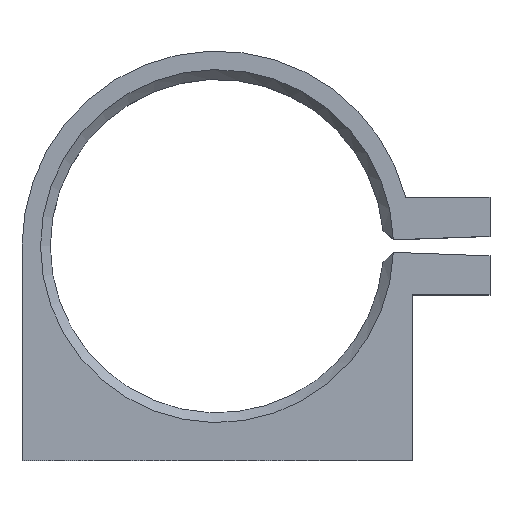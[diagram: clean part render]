
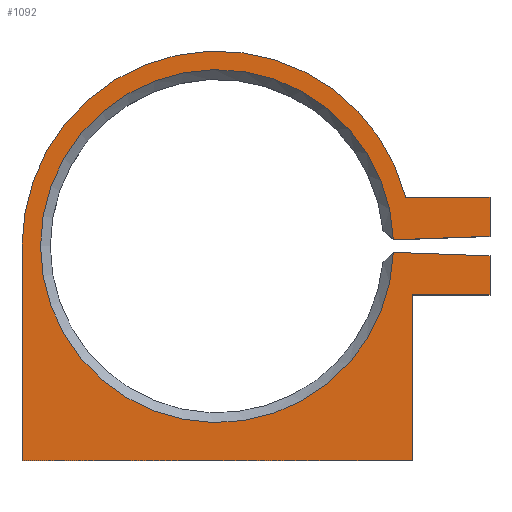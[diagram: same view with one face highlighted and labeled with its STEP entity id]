
A CAD part, top view. The second image highlights one B-rep face of the part: STEP entity #1092.
In plain terms, the highlighted planar face has unit normal (0, 0, 1).
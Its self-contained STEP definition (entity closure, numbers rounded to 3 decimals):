
#3 = CARTESIAN_POINT ( 'NONE',  ( 19.365, 5., 10. ) ) ;
#12 = CARTESIAN_POINT ( 'NONE',  ( 28., 0., 10. ) ) ;
#39 = ORIENTED_EDGE ( 'NONE', *, *, #423, .F. ) ;
#42 = EDGE_CURVE ( 'NONE', #1000, #203, #401, .T. ) ;
#54 = DIRECTION ( 'NONE',  ( 0., 0., -1. ) ) ;
#64 = EDGE_CURVE ( 'NONE', #372, #1111, #232, .T. ) ;
#66 = ORIENTED_EDGE ( 'NONE', *, *, #340, .F. ) ;
#78 = VERTEX_POINT ( 'NONE', #755 ) ;
#79 = DIRECTION ( 'NONE',  ( -1., 0., 0. ) ) ;
#90 = VECTOR ( 'NONE', #194, 1000. ) ;
#91 = PLANE ( 'NONE',  #329 ) ;
#96 = CARTESIAN_POINT ( 'NONE',  ( 20., 0., 10. ) ) ;
#98 = CARTESIAN_POINT ( 'NONE',  ( -20., 0., 10. ) ) ;
#116 = CARTESIAN_POINT ( 'NONE',  ( 28., -5., 10. ) ) ;
#137 = CARTESIAN_POINT ( 'NONE',  ( 28., 1., 10. ) ) ;
#146 = EDGE_CURVE ( 'NONE', #78, #943, #417, .T. ) ;
#147 = CARTESIAN_POINT ( 'NONE',  ( 28., 5., 10. ) ) ;
#170 = CARTESIAN_POINT ( 'NONE',  ( 20., -22., 10. ) ) ;
#178 = VECTOR ( 'NONE', #880, 1000. ) ;
#179 = LINE ( 'NONE', #547, #513 ) ;
#190 = VECTOR ( 'NONE', #769, 1000. ) ;
#194 = DIRECTION ( 'NONE',  ( 0., -1., 0. ) ) ;
#198 = VECTOR ( 'NONE', #1072, 1000. ) ;
#203 = VERTEX_POINT ( 'NONE', #3 ) ;
#213 = DIRECTION ( 'NONE',  ( 1., 0., 0. ) ) ;
#217 = EDGE_CURVE ( 'NONE', #78, #947, #349, .T. ) ;
#219 = CARTESIAN_POINT ( 'NONE',  ( 0., 0., 10. ) ) ;
#232 = LINE ( 'NONE', #592, #190 ) ;
#234 = LINE ( 'NONE', #502, #1091 ) ;
#239 = ORIENTED_EDGE ( 'NONE', *, *, #217, .F. ) ;
#266 = DIRECTION ( 'NONE',  ( 1., 0., 0. ) ) ;
#329 = AXIS2_PLACEMENT_3D ( 'NONE', #452, #373, #798 ) ;
#330 = CARTESIAN_POINT ( 'NONE',  ( 28., -1., 10. ) ) ;
#340 = EDGE_CURVE ( 'NONE', #947, #790, #535, .T. ) ;
#349 = LINE ( 'NONE', #330, #969 ) ;
#372 = VERTEX_POINT ( 'NONE', #98 ) ;
#373 = DIRECTION ( 'NONE',  ( 0., 0., 1. ) ) ;
#389 = ORIENTED_EDGE ( 'NONE', *, *, #42, .T. ) ;
#401 = LINE ( 'NONE', #928, #561 ) ;
#417 = CIRCLE ( 'NONE', #932, 18.1 ) ;
#423 = EDGE_CURVE ( 'NONE', #372, #203, #812, .T. ) ;
#452 = CARTESIAN_POINT ( 'NONE',  ( 0., 0., 10. ) ) ;
#469 = ORIENTED_EDGE ( 'NONE', *, *, #613, .F. ) ;
#502 = CARTESIAN_POINT ( 'NONE',  ( 0., -5., 10. ) ) ;
#505 = ORIENTED_EDGE ( 'NONE', *, *, #64, .T. ) ;
#508 = CARTESIAN_POINT ( 'NONE',  ( 0., 0., 10. ) ) ;
#513 = VECTOR ( 'NONE', #533, 1000. ) ;
#533 = DIRECTION ( 'NONE',  ( 1., 0., 0. ) ) ;
#535 = LINE ( 'NONE', #12, #198 ) ;
#547 = CARTESIAN_POINT ( 'NONE',  ( 0., -22., 10. ) ) ;
#561 = VECTOR ( 'NONE', #1013, 1000. ) ;
#592 = CARTESIAN_POINT ( 'NONE',  ( -20., 0., 10. ) ) ;
#613 = EDGE_CURVE ( 'NONE', #825, #943, #704, .T. ) ;
#619 = LINE ( 'NONE', #96, #178 ) ;
#649 = ORIENTED_EDGE ( 'NONE', *, *, #1057, .F. ) ;
#655 = ORIENTED_EDGE ( 'NONE', *, *, #1041, .T. ) ;
#663 = ORIENTED_EDGE ( 'NONE', *, *, #916, .F. ) ;
#681 = DIRECTION ( 'NONE',  ( 0.999, -0.036, 0. ) ) ;
#704 = LINE ( 'NONE', #1058, #1101 ) ;
#710 = VERTEX_POINT ( 'NONE', #1089 ) ;
#755 = CARTESIAN_POINT ( 'NONE',  ( 18.088, -0.646, 10. ) ) ;
#768 = DIRECTION ( 'NONE',  ( -0.999, -0.036, 0. ) ) ;
#769 = DIRECTION ( 'NONE',  ( 0., -1., 0. ) ) ;
#773 = AXIS2_PLACEMENT_3D ( 'NONE', #219, #54, #213 ) ;
#790 = VERTEX_POINT ( 'NONE', #116 ) ;
#798 = DIRECTION ( 'NONE',  ( 1., 0., 0. ) ) ;
#812 = CIRCLE ( 'NONE', #773, 20. ) ;
#825 = VERTEX_POINT ( 'NONE', #137 ) ;
#854 = EDGE_LOOP ( 'NONE', ( #239, #919, #469, #649, #389, #39, #505, #655, #1099, #663, #66 ) ) ;
#880 = DIRECTION ( 'NONE',  ( 0., 1., 0. ) ) ;
#885 = FACE_OUTER_BOUND ( 'NONE', #854, .T. ) ;
#916 = EDGE_CURVE ( 'NONE', #790, #710, #234, .T. ) ;
#919 = ORIENTED_EDGE ( 'NONE', *, *, #146, .T. ) ;
#928 = CARTESIAN_POINT ( 'NONE',  ( 0., 5., 10. ) ) ;
#932 = AXIS2_PLACEMENT_3D ( 'NONE', #508, #1054, #266 ) ;
#943 = VERTEX_POINT ( 'NONE', #1123 ) ;
#947 = VERTEX_POINT ( 'NONE', #1142 ) ;
#969 = VECTOR ( 'NONE', #681, 1000. ) ;
#971 = CARTESIAN_POINT ( 'NONE',  ( -20., -22., 10. ) ) ;
#983 = VERTEX_POINT ( 'NONE', #170 ) ;
#986 = LINE ( 'NONE', #1056, #90 ) ;
#1000 = VERTEX_POINT ( 'NONE', #147 ) ;
#1013 = DIRECTION ( 'NONE',  ( -1., 0., 0. ) ) ;
#1041 = EDGE_CURVE ( 'NONE', #1111, #983, #179, .T. ) ;
#1054 = DIRECTION ( 'NONE',  ( 0., 0., -1. ) ) ;
#1056 = CARTESIAN_POINT ( 'NONE',  ( 28., 0., 10. ) ) ;
#1057 = EDGE_CURVE ( 'NONE', #1000, #825, #986, .T. ) ;
#1058 = CARTESIAN_POINT ( 'NONE',  ( 0., 0., 10. ) ) ;
#1072 = DIRECTION ( 'NONE',  ( 0., -1., 0. ) ) ;
#1080 = EDGE_CURVE ( 'NONE', #983, #710, #619, .T. ) ;
#1089 = CARTESIAN_POINT ( 'NONE',  ( 20., -5., 10. ) ) ;
#1091 = VECTOR ( 'NONE', #79, 1000. ) ;
#1092 = ADVANCED_FACE ( 'NONE', ( #885 ), #91, .T. ) ;
#1099 = ORIENTED_EDGE ( 'NONE', *, *, #1080, .T. ) ;
#1101 = VECTOR ( 'NONE', #768, 1000. ) ;
#1111 = VERTEX_POINT ( 'NONE', #971 ) ;
#1123 = CARTESIAN_POINT ( 'NONE',  ( 18.088, 0.646, 10. ) ) ;
#1142 = CARTESIAN_POINT ( 'NONE',  ( 28., -1., 10. ) ) ;
